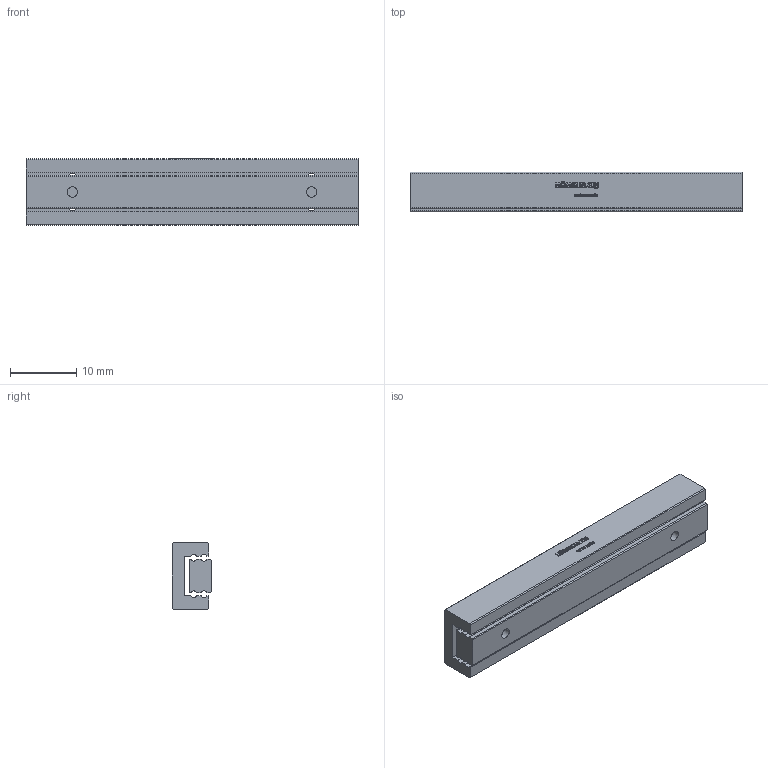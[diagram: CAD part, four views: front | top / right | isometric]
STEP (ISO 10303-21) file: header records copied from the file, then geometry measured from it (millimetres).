
FILE_DESCRIPTION(/* description */ ('STEP AP214'),/* implementation_level */ '2;1');
FILE_NAME(/* name */ 'MSK 5-50.45(0)',/* time_stamp */ '2025-04-16T16:52:47+02:00',/* author */ ('License CC BY-ND 4.0'),/* organization */ ('CADENAS'),/* preprocessor_version */ 'ST-DEVELOPER v19.3',/* originating_system */ 'PARTsolutions',/* authorisation */ ' ');
FILE_SCHEMA (('AUTOMOTIVE_DESIGN {1 0 10303 214 3 1 1}'));
Length unit declared in the file: millimetre
Products named in the file (3): MSK 5-50.45(0); MSK 5-50.45_1; MSK 5-50.45_2
Assembly tree (2 placements, depth 2):
  MSK 5-50.45(0)
    MSK 5-50.45_1
    MSK 5-50.45_2
Bounding box: 50 x 6 x 10 mm (x, y, z)
Volume: 2397 mm3; surface area: 2959.6 mm2
Topology: 2 solids, 2 shells, 513 faces, 1442 edges, 960 vertices
Faces by surface type: cylinder 306, plane 203, cone 4
Full cylindrical faces by diameter (mm): 1.567 x6
Entity records: 16849 total; most frequent: DIRECTION 3080, CARTESIAN_POINT 2908, ORIENTED_EDGE 2864, EDGE_CURVE 1432, AXIS2_PLACEMENT_3D 1132, VERTEX_POINT 960, LINE 816, VECTOR 816
